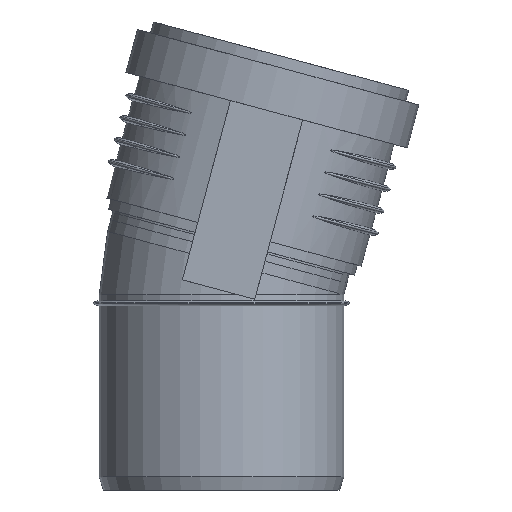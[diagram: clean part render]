
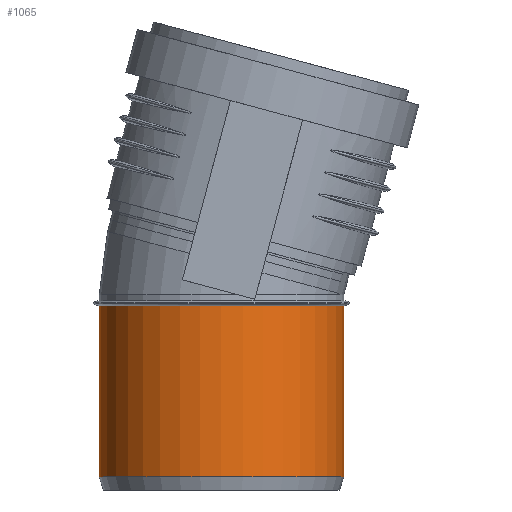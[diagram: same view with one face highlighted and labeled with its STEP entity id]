
A CAD part, front view. The second image highlights one B-rep face of the part: STEP entity #1065.
In plain terms, the highlighted cylindrical face has radius 37.6 mm (diameter 75.2 mm), a full revolution.
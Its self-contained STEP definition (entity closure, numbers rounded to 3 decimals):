
#190=CYLINDRICAL_SURFACE($,#1140,37.6);
#209=FACE_BOUND($,#314,.T.);
#252=FACE_OUTER_BOUND($,#313,.T.);
#313=EDGE_LOOP($,(#716));
#314=EDGE_LOOP($,(#717));
#414=CIRCLE($,#1138,37.6);
#416=CIRCLE($,#1141,37.6);
#469=VERTEX_POINT($,#1555);
#471=VERTEX_POINT($,#1560);
#575=EDGE_CURVE($,#469,#469,#414,.T.);
#577=EDGE_CURVE($,#471,#471,#416,.T.);
#716=ORIENTED_EDGE($,*,*,#577,.T.);
#717=ORIENTED_EDGE($,*,*,#575,.F.);
#1065=ADVANCED_FACE($,(#252,#209),#190,.T.);
#1138=AXIS2_PLACEMENT_3D($,#1556,#1267,#1268);
#1140=AXIS2_PLACEMENT_3D($,#1559,#1271,#1272);
#1141=AXIS2_PLACEMENT_3D($,#1561,#1273,#1274);
#1267=DIRECTION('center_axis',(0.,0.,-1.));
#1268=DIRECTION('ref_axis',(-1.,0.,0.));
#1271=DIRECTION('center_axis',(0.,0.,1.));
#1272=DIRECTION('ref_axis',(-1.,0.,0.));
#1273=DIRECTION('center_axis',(0.,0.,-1.));
#1274=DIRECTION('ref_axis',(-1.,0.,0.));
#1555=CARTESIAN_POINT('',(37.6,0.,4.));
#1556=CARTESIAN_POINT('Origin',(0.,0.,4.));
#1559=CARTESIAN_POINT('Origin',(0.,0.,0.));
#1560=CARTESIAN_POINT('',(-37.6,0.,56.7));
#1561=CARTESIAN_POINT('Origin',(0.,0.,56.7));
